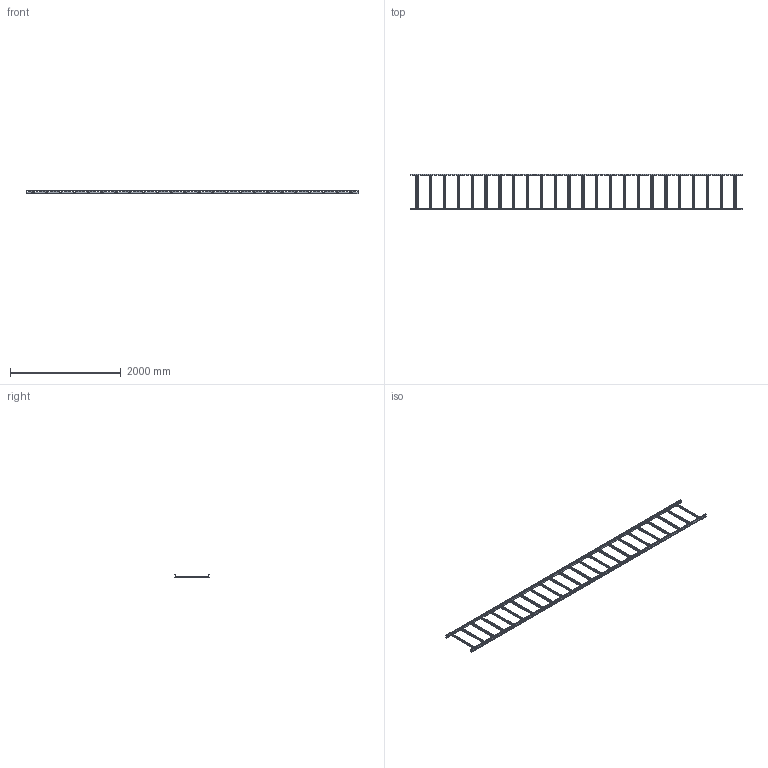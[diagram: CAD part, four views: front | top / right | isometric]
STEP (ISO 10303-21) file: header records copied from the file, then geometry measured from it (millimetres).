
FILE_DESCRIPTION(/* description */ ('','CAx-IF Rec.Pracs.---Representation and Presentation of Product Manufacturing Information (PMI)---4.0---2014-10-13'),/* implementation_level */ '2;1');
FILE_NAME(/* name */ 'Eurostrut_ECL60-600_CableLadder-3DView-{3D}.step',/* time_stamp */ '2026-09-03T08:25:01+02:00',/* author */ (''),/* organization */ (''),/* preprocessor_version */ 'ST-DEVELOPER v20.1',/* originating_system */ 'Autodesk Revit 2027 27.2.0.39',/* authorisation */ '');
FILE_SCHEMA (('AP242_MANAGED_MODEL_BASED_3D_ENGINEERING_MIM_LF { 1 0 10303 442 2 1 4 }'));
Length unit declared in the file: millimetre
Products named in the file (4): TopLevelAssembly; 60mm; 60mm_1; Cable Ladder Rung_Slotted
Assembly tree (26 placements, depth 2):
  TopLevelAssembly
    60mm
    60mm_1
    Cable Ladder Rung_Slotted  x24
Bounding box: 6000 x 646 x 60 mm (x, y, z)
Volume: 3948184.8 mm3; surface area: 5404155 mm2
Topology: 26 solids, 26 shells, 4332 faces, 12840 edges, 8560 vertices
Faces by surface type: plane 2772, bspline 1440, cylinder 120
Entity records: 41280 total; most frequent: CARTESIAN_POINT 8800, ORIENTED_EDGE 6912, DIRECTION 5888, EDGE_CURVE 3456, LINE 3280, VECTOR 3280, VERTEX_POINT 2304, EDGE_LOOP 1698
